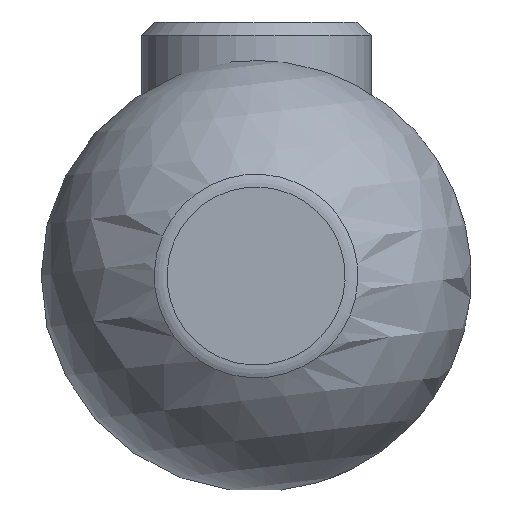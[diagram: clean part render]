
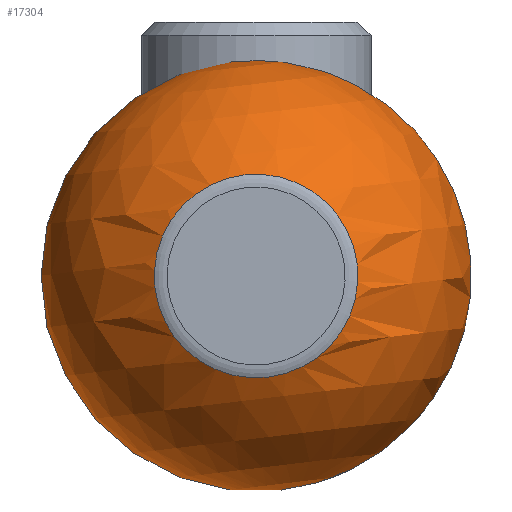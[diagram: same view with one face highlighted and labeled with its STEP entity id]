
A CAD part, left-side view. The second image highlights one B-rep face of the part: STEP entity #17304.
In plain terms, the highlighted spherical face has radius 12.179 mm.
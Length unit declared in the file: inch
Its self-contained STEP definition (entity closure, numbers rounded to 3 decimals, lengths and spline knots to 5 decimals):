
#32=SPHERICAL_SURFACE('',#18361,0.4795);
#192=FACE_BOUND('',#3065,.T.);
#193=FACE_BOUND('',#3066,.T.);
#3065=EDGE_LOOP('',(#16136));
#3066=EDGE_LOOP('',(#16137));
#6005=CIRCLE('',#18353,0.26464);
#6008=CIRCLE('',#18360,0.2265);
#8547=VERTEX_POINT('',#40460);
#8550=VERTEX_POINT('',#40470);
#11080=EDGE_CURVE('',#8547,#8547,#6005,.T.);
#11083=EDGE_CURVE('',#8550,#8550,#6008,.T.);
#16136=ORIENTED_EDGE('',*,*,#11080,.T.);
#16137=ORIENTED_EDGE('',*,*,#11083,.T.);
#17304=ADVANCED_FACE('',(#192,#193),#32,.T.);
#18353=AXIS2_PLACEMENT_3D('',#40461,#21523,#21524);
#18360=AXIS2_PLACEMENT_3D('',#40471,#21537,#21538);
#18361=AXIS2_PLACEMENT_3D('',#40472,#21539,#21540);
#21523=DIRECTION('center_axis',(-1.,0.,0.));
#21524=DIRECTION('ref_axis',(0.,0.,-1.));
#21537=DIRECTION('center_axis',(1.,0.,0.));
#21538=DIRECTION('ref_axis',(0.,0.,-1.));
#21539=DIRECTION('center_axis',(0.,0.,1.));
#21540=DIRECTION('ref_axis',(1.,0.,0.));
#40460=CARTESIAN_POINT('',(-0.46231,0.14868,0.));
#40461=CARTESIAN_POINT('Origin',(-0.46231,0.41332,0.));
#40470=CARTESIAN_POINT('',(-1.2848,0.63982,0.));
#40471=CARTESIAN_POINT('Origin',(-1.2848,0.41332,0.));
#40472=CARTESIAN_POINT('Origin',(-0.86217,0.41332,0.));
